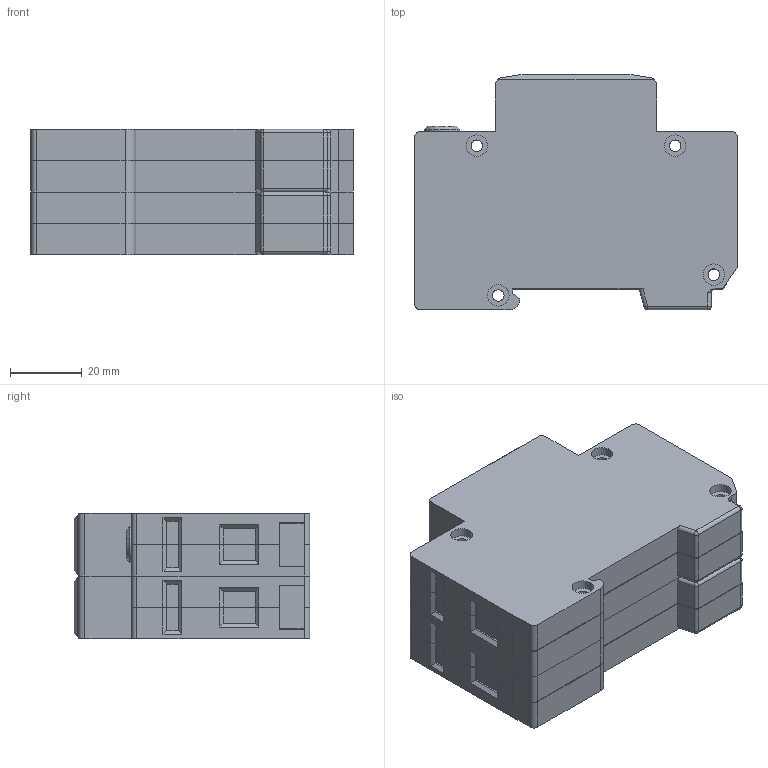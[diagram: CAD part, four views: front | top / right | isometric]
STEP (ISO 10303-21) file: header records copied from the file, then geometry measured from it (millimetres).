
FILE_DESCRIPTION(/* description */ (''),/* implementation_level */ '2;1');
FILE_NAME(/* name */ 'K:\PROJEKTY ROZPRACOVANÉ\MODELY DO KATALOGU\HSA, HLSA 24520, 10007\3D - STEP\H 1+1.stp',/* time_stamp */ '2022-04-01T07:44:21+02:00',/* author */ ('miko'),/* organization */ (''),/* preprocessor_version */ 'ST-DEVELOPER v18.1',/* originating_system */ 'Autodesk Inventor 2022',/* authorisation */ '');
FILE_SCHEMA (('AUTOMOTIVE_DESIGN { 1 0 10303 214 3 1 1 }'));
Length unit declared in the file: millimetre
Products named in the file (6): H 1+1; HLSA; HLSA_1; HGDT (Z); HGDT (Z)_1; DIN 7985 (H) - M5x6-H
Assembly tree (7 placements, depth 3):
  H 1+1
    HLSA
      HLSA_1
      DIN 7985 (H) - M5x6-H  x2
    HGDT (Z)
      HGDT (Z)_1
      DIN 7985 (H) - M5x6-H
Bounding box: 90 x 65.8 x 35 mm (x, y, z)
Volume: 168857 mm3; surface area: 36039.9 mm2
Topology: 5 solids, 5 shells, 568 faces, 1538 edges, 1002 vertices
Faces by surface type: plane 403, cylinder 95, cone 52, sphere 11, torus 7
Full cylindrical faces by diameter (mm): 3.2 x8, 4.6 x3, 5 x3, 6 x16, 10 x1
Entity records: 15549 total; most frequent: CARTESIAN_POINT 2767, ORIENTED_EDGE 2660, DIRECTION 2564, EDGE_CURVE 1330, LINE 1058, VECTOR 1058, VERTEX_POINT 864, AXIS2_PLACEMENT_3D 753
